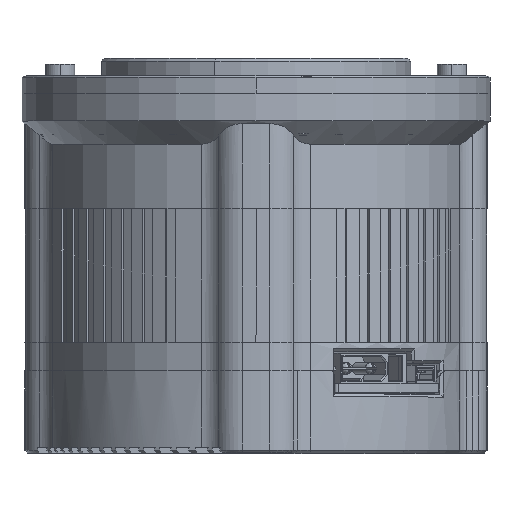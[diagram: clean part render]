
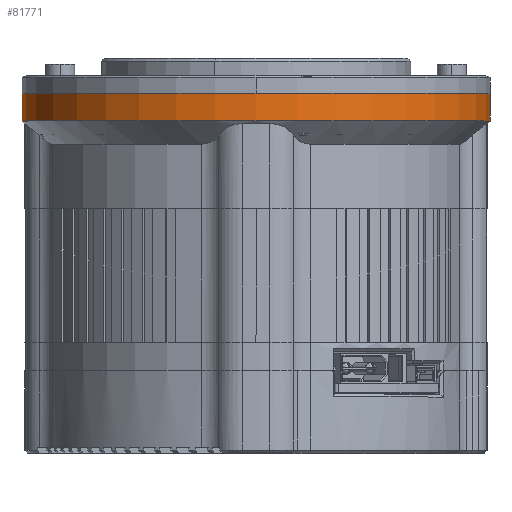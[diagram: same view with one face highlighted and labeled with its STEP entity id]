
A CAD part, top view. The second image highlights one B-rep face of the part: STEP entity #81771.
In plain terms, the highlighted cylindrical face has radius 40 mm (diameter 80 mm), a partial arc.
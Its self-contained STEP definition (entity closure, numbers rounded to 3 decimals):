
#1919 = FACE_OUTER_BOUND ( 'NONE', #90823, .T. ) ;
#2518 = DIRECTION ( 'NONE',  ( 0., 1., 0. ) ) ;
#5385 = ORIENTED_EDGE ( 'NONE', *, *, #75450, .F. ) ;
#5451 = ORIENTED_EDGE ( 'NONE', *, *, #21974, .T. ) ;
#10775 = ORIENTED_EDGE ( 'NONE', *, *, #50907, .T. ) ;
#15263 = CARTESIAN_POINT ( 'NONE',  ( 0., 15., 0. ) ) ;
#18866 = DIRECTION ( 'NONE',  ( 0., 1., 0. ) ) ;
#20146 = VERTEX_POINT ( 'NONE', #53030 ) ;
#20326 = AXIS2_PLACEMENT_3D ( 'NONE', #15263, #18866, #26788 ) ;
#21974 = EDGE_CURVE ( 'NONE', #69310, #27844, #46942, .T. ) ;
#25620 = CYLINDRICAL_SURFACE ( 'NONE', #67991, 40. ) ;
#26788 = DIRECTION ( 'NONE',  ( 0., 0., -1. ) ) ;
#27844 = VERTEX_POINT ( 'NONE', #64294 ) ;
#29211 = CARTESIAN_POINT ( 'NONE',  ( 0., 15., -40. ) ) ;
#35518 = LINE ( 'NONE', #90280, #37072 ) ;
#37072 = VECTOR ( 'NONE', #42405, 1000. ) ;
#38805 = VECTOR ( 'NONE', #46435, 1000. ) ;
#40555 = CIRCLE ( 'NONE', #20326, 40. ) ;
#42405 = DIRECTION ( 'NONE',  ( 0., -1., 0. ) ) ;
#46435 = DIRECTION ( 'NONE',  ( 0., -1., 0. ) ) ;
#46942 = LINE ( 'NONE', #86891, #38805 ) ;
#50907 = EDGE_CURVE ( 'NONE', #27844, #64348, #40555, .T. ) ;
#52196 = CIRCLE ( 'NONE', #90825, 40. ) ;
#53030 = CARTESIAN_POINT ( 'NONE',  ( 0., 19.7, -40. ) ) ;
#57736 = CARTESIAN_POINT ( 'NONE',  ( 0., 19.7, 0. ) ) ;
#64294 = CARTESIAN_POINT ( 'NONE',  ( 0., 15., 40. ) ) ;
#64348 = VERTEX_POINT ( 'NONE', #29211 ) ;
#64596 = DIRECTION ( 'NONE',  ( 0., 0., -1. ) ) ;
#65613 = DIRECTION ( 'NONE',  ( 0., -1., 0. ) ) ;
#67991 = AXIS2_PLACEMENT_3D ( 'NONE', #57736, #65613, #64596 ) ;
#69310 = VERTEX_POINT ( 'NONE', #72596 ) ;
#72596 = CARTESIAN_POINT ( 'NONE',  ( 0., 19.7, 40. ) ) ;
#74565 = CARTESIAN_POINT ( 'NONE',  ( 0., 19.7, 0. ) ) ;
#75109 = EDGE_CURVE ( 'NONE', #69310, #20146, #52196, .T. ) ;
#75450 = EDGE_CURVE ( 'NONE', #20146, #64348, #35518, .T. ) ;
#81771 = ADVANCED_FACE ( 'NONE', ( #1919 ), #25620, .T. ) ;
#83777 = ORIENTED_EDGE ( 'NONE', *, *, #75109, .F. ) ;
#84041 = DIRECTION ( 'NONE',  ( 0., 0., 1. ) ) ;
#86891 = CARTESIAN_POINT ( 'NONE',  ( 0., 19.7, 40. ) ) ;
#90280 = CARTESIAN_POINT ( 'NONE',  ( 0., 19.7, -40. ) ) ;
#90823 = EDGE_LOOP ( 'NONE', ( #83777, #5451, #10775, #5385 ) ) ;
#90825 = AXIS2_PLACEMENT_3D ( 'NONE', #74565, #2518, #84041 ) ;
